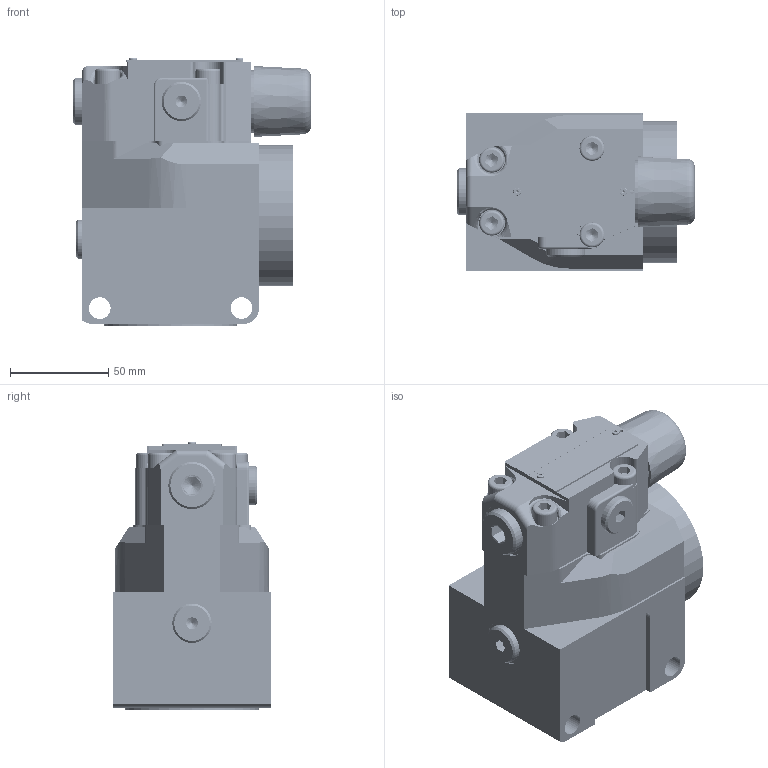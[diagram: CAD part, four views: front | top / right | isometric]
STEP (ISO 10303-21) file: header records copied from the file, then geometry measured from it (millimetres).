
FILE_DESCRIPTION(/* description */ (''),/* implementation_level */ '2;1');
FILE_NAME(/* name */ 'DR30G5-5XJ.stp',/* time_stamp */ '2024-03-23T15:18:18+08:00',/* author */ (''),/* organization */ (''),/* preprocessor_version */ 'ST-DEVELOPER v16.7',/* originating_system */ 'SIEMENS PLM Software NX 12.0',/* authorisation */ '');
FILE_SCHEMA (('AUTOMOTIVE_DESIGN { 1 0 10303 214 3 1 1 1 }'));
Products named in the file (1): DR30G5-5XJ
Bounding box: 120.76 x 80 x 136 mm (x, y, z)
Volume: 530882.3 mm3; surface area: 170746.9 mm2
Topology: 43 solids, 46 shells, 1184 faces, 2962 edges, 1889 vertices
Faces by surface type: cylinder 543, plane 387, cone 116, bspline 85, torus 50, sphere 3
Full cylindrical faces by diameter (mm): 0.8 x3, 1 x2, 1.5 x3, 1.8 x4, 1.9 x2, 2 x4, 3 x20, 3.2 x4, 3.3 x2, 3.4 x12, 4 x3, 4.2 x10, 4.5 x2, 4.7 x1, 5 x17, 5.4 x1, 5.5 x1, 5.6 x2, 6 x13, 6.7 x48, 7 x1, 8 x93, 8.3 x3, 8.4 x4, 9 x9, 9.5 x1, 10 x2, 11 x4, 11.1 x2, 11.3 x2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
Entity records: 111518 total; most frequent: CARTESIAN_POINT 91288, DIRECTION 3757, ORIENTED_EDGE 3648, EDGE_CURVE 1824, AXIS2_PLACEMENT_3D 1580, EDGE_LOOP 1439, VERTEX_POINT 1340, FACE_BOUND 969
